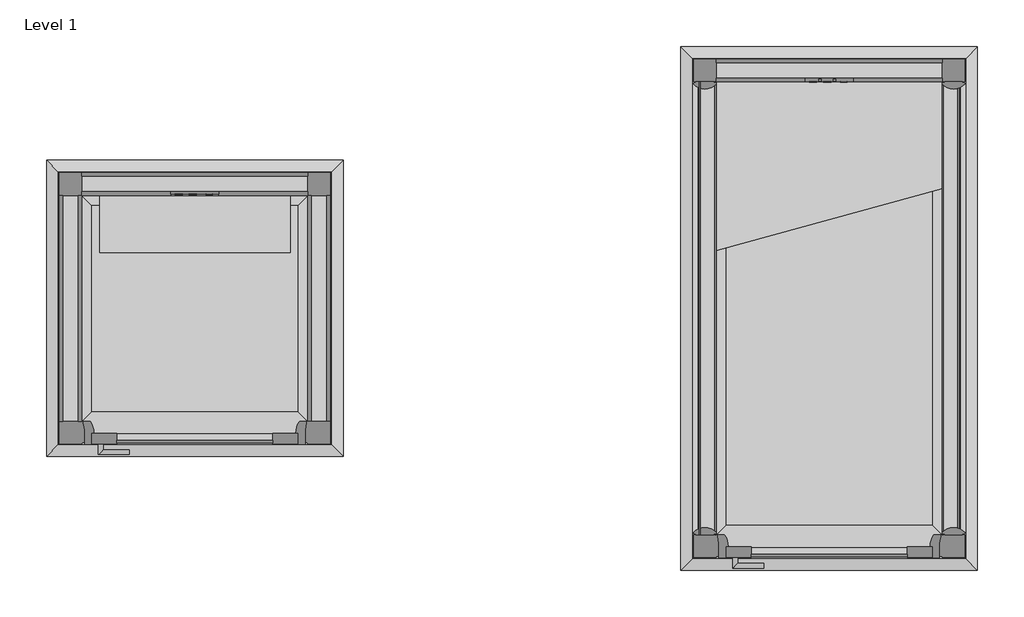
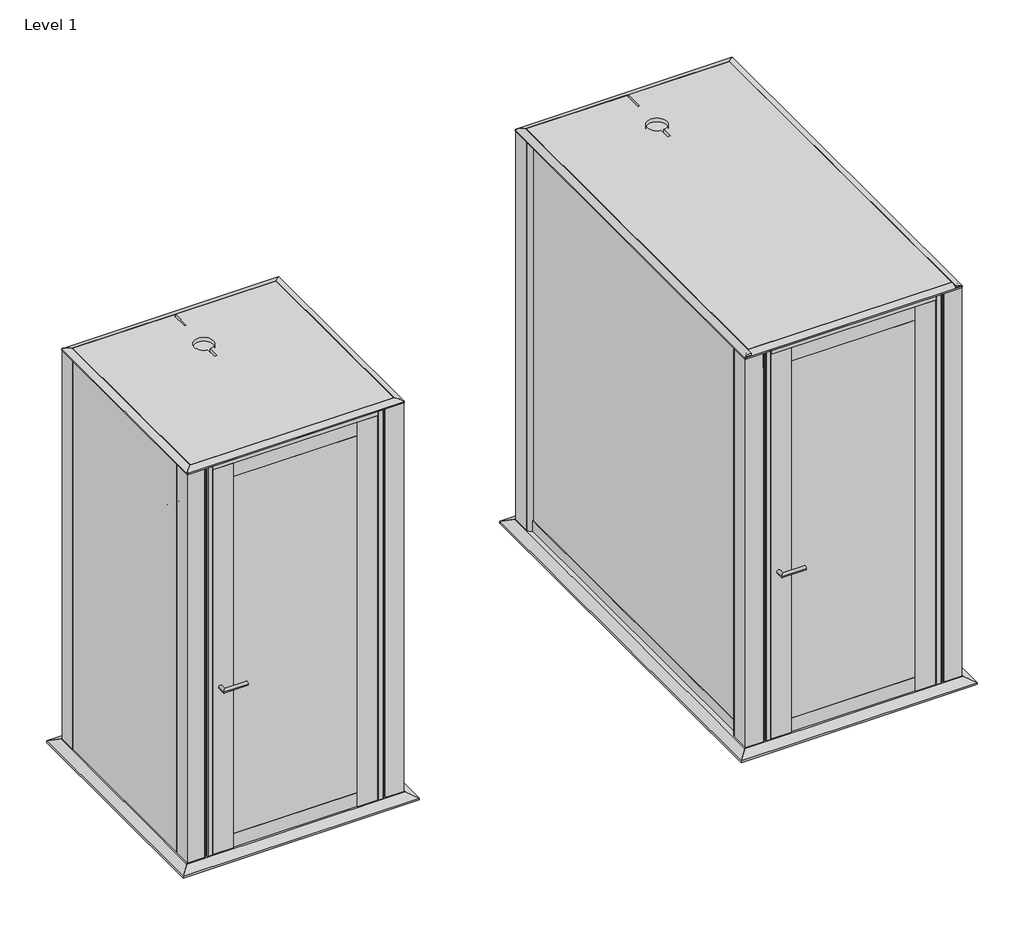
# One storey, incomplete: 2 furniture elements.
"""IFC4 building model written with IfcOpenShell, lengths in millimetres."""

from ifc_helpers import new_model, si_unit, origin, place, context, project, spatial, transform, mapped, element, save
from components import pod_pod_1f5b962f, pod_pod_d2ebc2de, single_pod_single_pod_233d3e17, single_pod_single_pod_43662315

model = new_model("IFC4")

# Units and contexts
model_context = context("Model", 3, world=origin())
ifc_project = project(units=[si_unit("LENGTHUNIT", "METRE", prefix="MILLI")], contexts=[model_context])

# Site, building, storey
site = spatial("IfcSite", under=ifc_project)
building = spatial("IfcBuilding", under=site)
storey = spatial("IfcBuildingStorey", under=building, Name="Level 1", Elevation=0.0)

# Furniture
placement = place(None, origin())
pod_pod_shape = pod_pod_1f5b962f(model_context)
pod_pod_2_shape = pod_pod_d2ebc2de(model_context)
element("IfcFurniture", 1, ObjectType="Pod : Pod", at=placement, inside=storey, context=model_context, shape_type="MappedRepresentation", body=[
    mapped(pod_pod_shape, transform((14700.5036733, 1605.5400598, 0.0), x_axis=(1.0, 0.0, 0.0), y_axis=(0.0, 1.0, 0.0), z_axis=(0.0, 0.0, 1.0))),
    mapped(pod_pod_2_shape, transform((14700.5036733, 1605.5400598, 0.0), x_axis=(1.0, 0.0, 0.0), y_axis=(0.0, 1.0, 0.0), z_axis=(0.0, 0.0, 1.0))),
])
single_pod_single_pod_shape = single_pod_single_pod_233d3e17(model_context)
single_pod_single_pod_2_shape = single_pod_single_pod_43662315(model_context)
element("IfcFurniture", 2, ObjectType="Single pod : Single pod", at=placement, inside=storey, context=model_context, shape_type="MappedRepresentation", body=[
    mapped(single_pod_single_pod_shape, transform((12037.0375207, 1605.5400598, 0.0), x_axis=(1.0, 0.0, 0.0), y_axis=(0.0, 1.0, 0.0), z_axis=(0.0, 0.0, 1.0))),
    mapped(single_pod_single_pod_2_shape, transform((12037.0375207, 1605.5400598, 0.0), x_axis=(1.0, 0.0, 0.0), y_axis=(0.0, 1.0, 0.0), z_axis=(0.0, 0.0, 1.0))),
])

save(model, "model.ifc")
